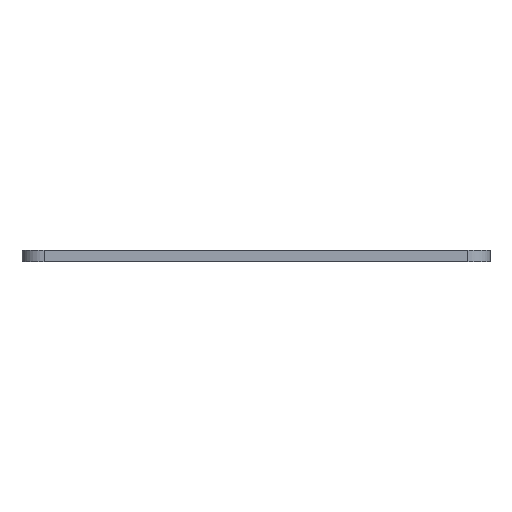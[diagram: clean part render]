
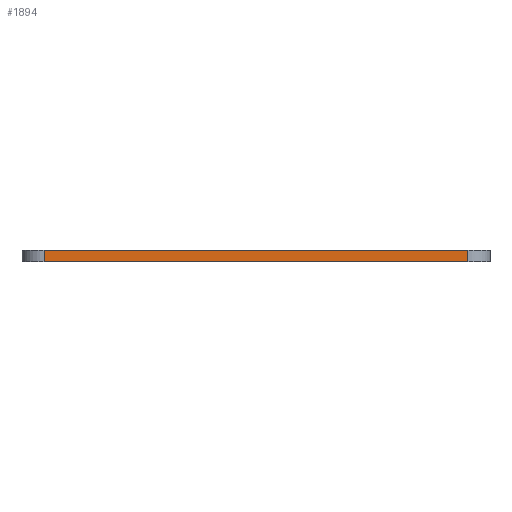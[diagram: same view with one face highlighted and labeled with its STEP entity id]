
A CAD part, front view. The second image highlights one B-rep face of the part: STEP entity #1894.
In plain terms, the highlighted planar face has unit normal (0, -1, 0).
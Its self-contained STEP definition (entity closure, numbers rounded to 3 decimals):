
#77=PLANE('',#2083);
#103=VECTOR('',#2164,1.);
#245=VECTOR('',#2554,1.);
#250=VECTOR('',#2586,1.);
#251=VECTOR('',#2588,1.);
#277=LINE('',#2679,#103);
#419=LINE('',#3108,#245);
#424=LINE('',#3134,#250);
#425=LINE('',#3136,#251);
#458=VERTEX_POINT('',#2678);
#459=VERTEX_POINT('',#2680);
#603=VERTEX_POINT('',#3107);
#604=VERTEX_POINT('',#3109);
#749=EDGE_CURVE('',#459,#458,#277,.T.);
#965=EDGE_CURVE('',#604,#603,#419,.T.);
#976=EDGE_CURVE('',#458,#604,#424,.T.);
#977=EDGE_CURVE('',#459,#603,#425,.T.);
#1511=ORIENTED_EDGE('',*,*,#965,.T.);
#1512=ORIENTED_EDGE('',*,*,#977,.F.);
#1513=ORIENTED_EDGE('',*,*,#749,.T.);
#1514=ORIENTED_EDGE('',*,*,#976,.T.);
#1660=EDGE_LOOP('',(#1511,#1512,#1513,#1514));
#1800=FACE_BOUND('',#1660,.T.);
#1894=ADVANCED_FACE('',(#1800),#77,.T.);
#2083=AXIS2_PLACEMENT_3D('',#3135,#2587,$);
#2164=DIRECTION('',(1.,0.,0.));
#2554=DIRECTION('',(-1.,0.,0.));
#2586=DIRECTION('',(0.,0.,1.));
#2587=DIRECTION('',(0.,-1.,0.));
#2588=DIRECTION('',(0.,0.,1.));
#2678=CARTESIAN_POINT('',(38.,-38.5,-1.));
#2679=CARTESIAN_POINT('',(-38.,-38.5,-1.));
#2680=CARTESIAN_POINT('',(-38.,-38.5,-1.));
#3107=CARTESIAN_POINT('',(-38.,-38.5,1.));
#3108=CARTESIAN_POINT('',(-38.,-38.5,1.));
#3109=CARTESIAN_POINT('',(38.,-38.5,1.));
#3134=CARTESIAN_POINT('',(38.,-38.5,-1.));
#3135=CARTESIAN_POINT('',(0.,-38.5,-1.));
#3136=CARTESIAN_POINT('',(-38.,-38.5,-1.));
